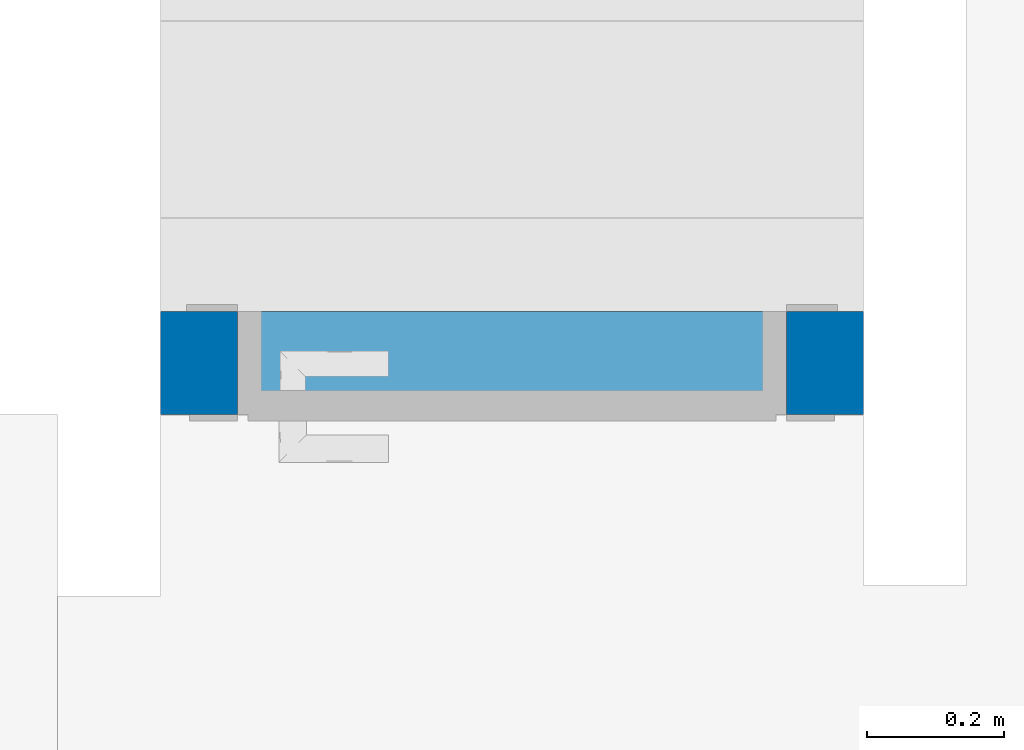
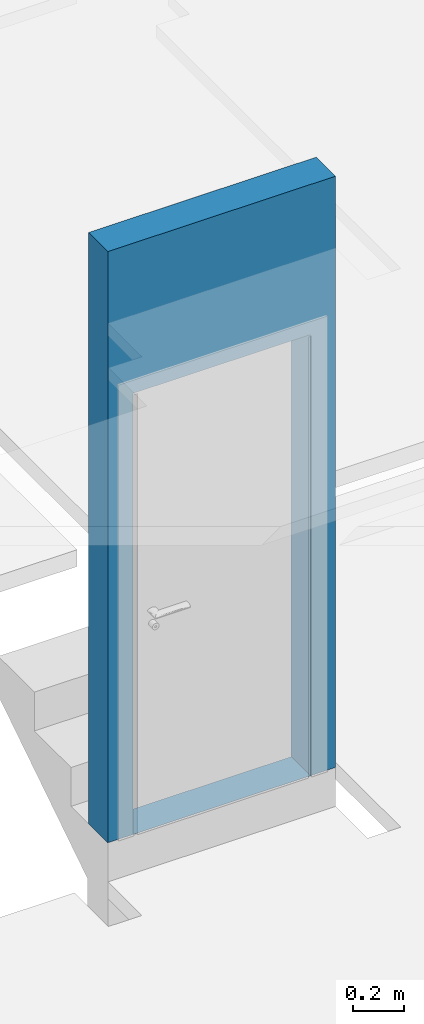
# One storey, part 2 of 3: 1 wall, 1 opening.
"""IFC2X3 building model written with IfcOpenShell, lengths in metres."""

from ifc_helpers import new_model, entity, si_unit, converted_unit, derived_unit, direction, frame, frame_2d, origin, place, context, subcontext, project, spatial, rectangle, extrude, material, layer, layer_set, layer_usage, type_object, element, save


model = new_model("IFC2X3")

# Units and contexts
model_context = context("Model", 3, precision=1e-05, world=origin(), true_north=direction((6.12303176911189e-17, 1.0)))
context_of_model = context(None, 3, precision=1e-05, world=origin(), true_north=direction((6.12303176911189e-17, 1.0)))
body_context = subcontext(model_context, "Body", "Model", "MODEL_VIEW")
ifc_project = project(units=[si_unit("LENGTHUNIT", "METRE"), si_unit("AREAUNIT", "SQUARE_METRE"), si_unit("VOLUMEUNIT", "CUBIC_METRE"), converted_unit("PLANEANGLEUNIT", "DEGREE", entity("IfcRatioMeasure", 0.0174532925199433), si_unit("PLANEANGLEUNIT", "RADIAN"), dimensions=[0, 0, 0, 0, 0, 0, 0]), si_unit("MASSUNIT", "GRAM", prefix="KILO"), si_unit("TIMEUNIT", "SECOND"), si_unit("FREQUENCYUNIT", "HERTZ"), si_unit("THERMODYNAMICTEMPERATUREUNIT", "DEGREE_CELSIUS"), derived_unit("THERMALTRANSMITTANCEUNIT", [(si_unit("MASSUNIT", "GRAM", prefix="KILO"), 1), (si_unit("THERMODYNAMICTEMPERATUREUNIT", "KELVIN"), -1), (si_unit("TIMEUNIT", "SECOND"), -3)]), derived_unit("VOLUMETRICFLOWRATEUNIT", [(si_unit("LENGTHUNIT", "METRE"), 3), (si_unit("TIMEUNIT", "SECOND"), -1)]), si_unit("ELECTRICCURRENTUNIT", "AMPERE"), si_unit("ELECTRICVOLTAGEUNIT", "VOLT"), si_unit("POWERUNIT", "WATT"), si_unit("FORCEUNIT", "NEWTON", prefix="KILO"), si_unit("ILLUMINANCEUNIT", "LUX"), si_unit("LUMINOUSFLUXUNIT", "LUMEN"), si_unit("LUMINOUSINTENSITYUNIT", "CANDELA"), si_unit("PRESSUREUNIT", "PASCAL")], contexts=[model_context, context_of_model])

# Site, building, storey
site_placement = place(None, origin())
site = spatial("IfcSite", under=ifc_project, at=site_placement, Name="Default", CompositionType="ELEMENT")
building_placement = place(site_placement, origin())
building = spatial("IfcBuilding", under=site, at=building_placement, CompositionType="ELEMENT")
storey_placement = place(building_placement, frame((0.0, 0.0, 3.53)))
storey = spatial("IfcBuildingStorey", under=building, at=storey_placement, Name="02.AR.PLANTA PRIMERA ACAB. SUELO", CompositionType="ELEMENT", Elevation=3.53)

# Wall, opening
ifc_material = material(Name="Muro por defecto")
ifc_layer = layer(ifc_material, 0.15)
ifc_layer_set = layer_set([ifc_layer], Name="Muro básico:Por defecto - 15 cm")
ifc_layer_usage = layer_usage(ifc_layer_set, "AXIS2", "POSITIVE", -0.075)
wall_type = type_object("IfcWallType", Name="Muro básico:Por defecto - 15 cm", PredefinedType="STANDARD", material=ifc_layer_set)
wall_placement = place(storey_placement, frame((11.415, 6.86500000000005, 0.185000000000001), z_axis=(0.0, 0.0, 1.0), x_axis=(-1.0, 0.0, 0.0)))
wall = element("IfcWallStandardCase", 1, at=wall_placement, inside=storey, type_object=wall_type, material=ifc_layer_usage, Name="Muro básico:Por defecto - 15 cm", ObjectType="Muro básico:Por defecto - 15 cm", context=body_context, shape_type="SweptSolid", body=[
    extrude(rectangle(XDim=1.02499999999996, YDim=0.150000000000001, at=frame_2d((0.512499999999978, 0.0), x_axis=(-1.0, 0.0))), origin(), (0.0, 0.0, 1.0), 2.815),
])
opening_placement = place(wall_placement, frame((0.112499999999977, -0.0750000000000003, 1.48083679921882e-06)))
element("IfcOpeningElement", 2, at=opening_placement, cuts=wall, Name="Puerta de 1 hoja:80 x 210 cm:1", ObjectType="Opening", context=body_context, shape_type="SweptSolid", body=[
    extrude(rectangle(XDim=2.09999999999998, YDim=0.8, at=frame_2d((1.04999999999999, 0.4), x_axis=(1.0, 0.0))), frame((0.0, 0.0, 0.0), z_axis=(0.0, 1.0, 0.0), x_axis=(0.0, 0.0, 1.0)), (0.0, 0.0, 1.0), 0.15),
])

save(model, "model.ifc")
